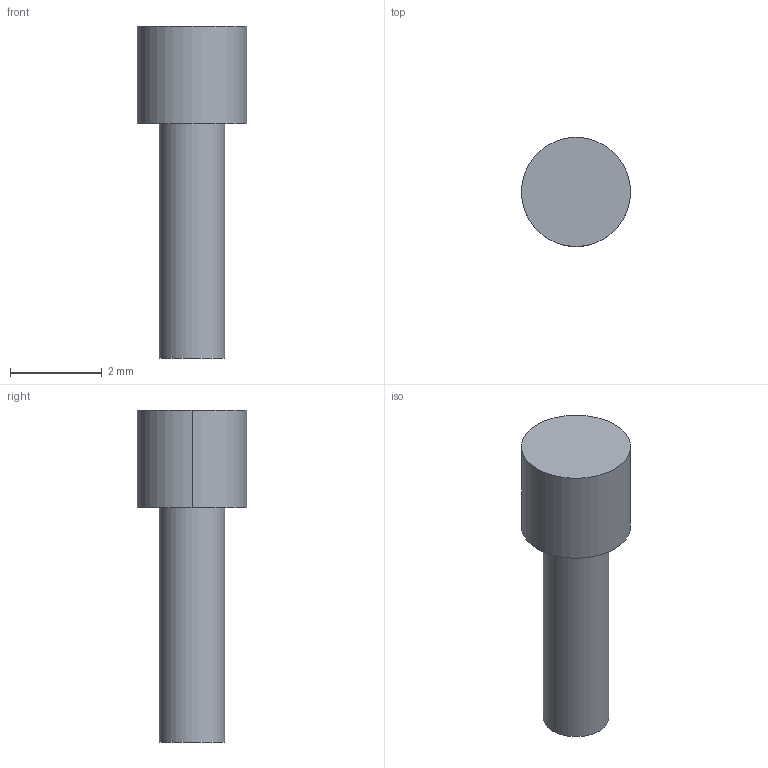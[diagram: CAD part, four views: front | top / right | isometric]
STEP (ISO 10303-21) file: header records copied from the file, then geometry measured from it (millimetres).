
FILE_DESCRIPTION(('FreeCAD Model'),'2;1');
FILE_NAME('/var/www/3D/0T/774103.1.2.stp','2021-01-15T08:17:23',( 'Author'),(''),'Open CASCADE STEP processor 6.9','FreeCAD','Unknown' );
FILE_SCHEMA(('AUTOMOTIVE_DESIGN { 1 0 10303 214 1 1 1 1 }'));
Length unit declared in the file: millimetre
Products named in the file (3): ASSEMBLY; Body; Leads
Assembly tree (2 placements, depth 2):
  ASSEMBLY
    Body
    Leads
Bounding box: 2.38 x 2.38 x 7.23 mm (x, y, z)
Volume: 17.6 mm3; surface area: 50.9 mm2
Topology: 2 solids, 3 shells, 8 faces, 9 edges, 6 vertices
Faces by surface type: plane 5, cylinder 3
Full cylindrical faces by diameter (mm): 1.426 x1
Entity records: 382 total; most frequent: DIRECTION 61, CARTESIAN_POINT 50, ORIENTED_EDGE 24, PCURVE 22, DEFINITIONAL_REPRESENTATION 22, LINE 21, VECTOR 21, AXIS2_PLACEMENT_3D 17
